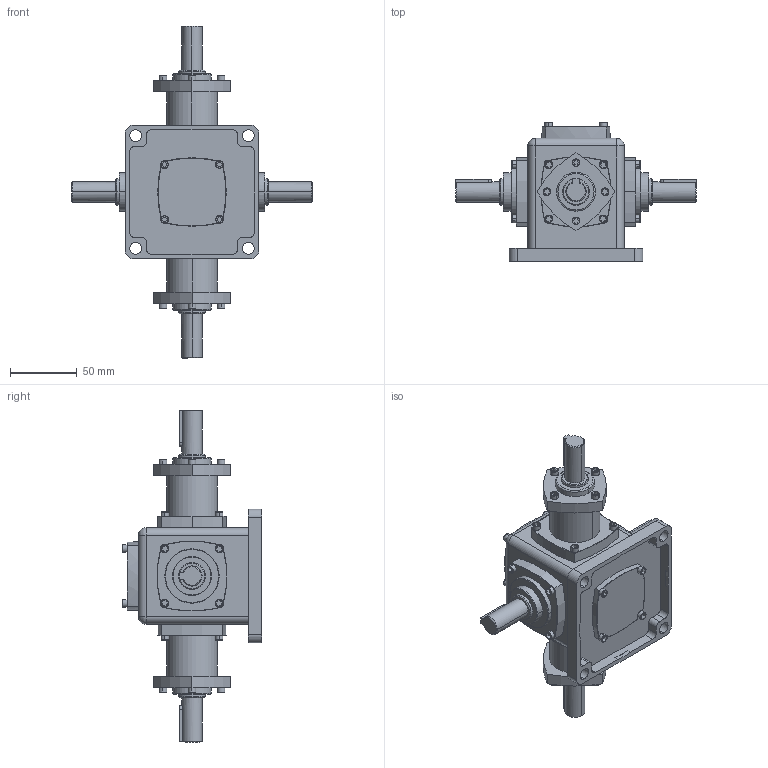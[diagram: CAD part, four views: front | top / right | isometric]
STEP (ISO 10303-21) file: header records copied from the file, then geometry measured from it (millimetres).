
FILE_DESCRIPTION (( 'STEP AP214' ), '1' );
FILE_NAME ('T2-1：1-1-1-LRO-B3.step', '2023-06-16T05:21:45', ( 'Windows 用户' ), ( '' ), 'SwSTEP 2.0', 'SolidWorks 2016', '' );
FILE_SCHEMA (( 'AUTOMOTIVE_DESIGN' ));
Length unit declared in the file: millimetre
Products named in the file (1): T2-1：1-1-1-LRO-B3
Bounding box: 180 x 104 x 248 mm (x, y, z)
Volume: 727498.3 mm3; surface area: 94264.8 mm2
Topology: 5 solids, 5 shells, 1561 faces, 4035 edges, 2641 vertices
Faces by surface type: plane 945, bspline 322, cylinder 175, torus 101, cone 14, sphere 4
Entity records: 63363 total; most frequent: CARTESIAN_POINT 26644, ORIENTED_EDGE 8062, DIRECTION 6405, EDGE_CURVE 4031, VECTOR 2777, LINE 2777, VERTEX_POINT 2641, AXIS2_PLACEMENT_3D 1814
